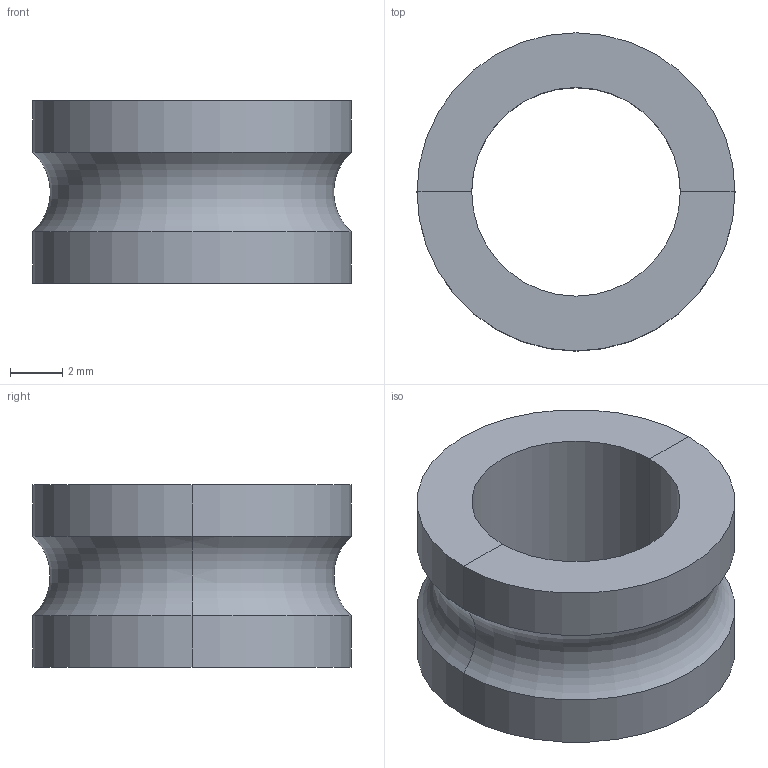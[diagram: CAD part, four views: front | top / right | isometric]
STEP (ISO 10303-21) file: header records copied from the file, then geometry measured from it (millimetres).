
FILE_DESCRIPTION(('BendCAD export'),'2;1');
FILE_NAME('bendcad.step','',('BendCAD'),('BendCAD'),'BendCAD','BendCAD','');
FILE_SCHEMA(('AUTOMOTIVE_DESIGN'));
Length unit declared in the file: millimetre
Products named in the file (1): BENDCAD
Bounding box: 12.2 x 12.2 x 7 mm (x, y, z)
Volume: 415.4 mm3; surface area: 582.4 mm2
Topology: 1 solids, 1 shells, 12 faces, 26 edges, 14 vertices
Faces by surface type: cylinder 6, plane 4, torus 2
Entity records: 334 total; most frequent: DIRECTION 60, ORIENTED_EDGE 52, CARTESIAN_POINT 51, EDGE_CURVE 26, AXIS2_PLACEMENT_3D 25, VERTEX_POINT 14, CIRCLE 12, TRIMMED_CURVE 12
